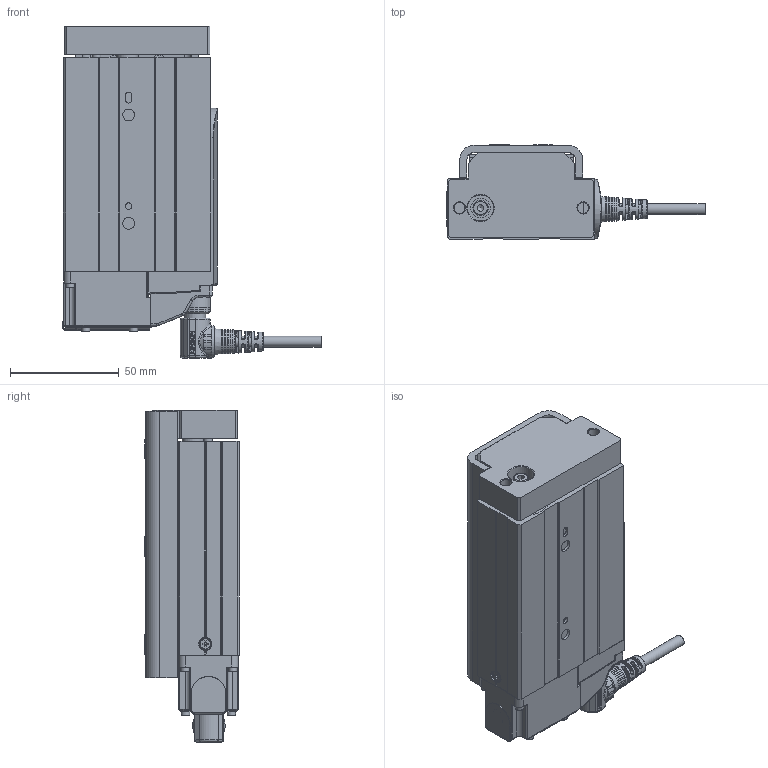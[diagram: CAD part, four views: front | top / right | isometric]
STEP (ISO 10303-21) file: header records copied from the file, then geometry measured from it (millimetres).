
FILE_DESCRIPTION(/* description */ ('STEP AP203'),/* implementation_level */ '2;1');
FILE_NAME(/* name */ 'D:\暫\2025.02.06 CSG 3D\CSG25-B\CSG25-S50-B-WL.stp',/* time_stamp */ '2025-02-08T10:33:34+08:00',/* author */ ('T10033'),/* organization */ (''),/* preprocessor_version */ 'ST-DEVELOPER v18.1',/* originating_system */ 'Autodesk Inventor 2020',/* authorisation */ '');
FILE_SCHEMA (('CONFIG_CONTROL_DESIGN'));
Products named in the file (29): CSG25-50行程-煞車; ©T©wªO-·¥­­¾×ª
O4-M2¤ú; M12 -14PIN  ªOºÝ-²Ä¤@ºØ
³W®æ; CSG25-50¥»Åé3ª©-ªo¤Õ
½Õ¾ã¨¤«×; countersunk flat head cross recess screw_iso_ISO 7046-1 - M2.5 x 4 - 
Z - 4N; ¶ì½¦ºÝ»-L¼Ë¦¡(TOYO)-°
t¦XPCB(·Ù¨®¥Î)-DF3±µÀYª½
±µ©ñ¤Jª©; IS 2269 - M2 x 10; ISO 4762 - M2.5 x 6ISO; PCB; 423T324GV F; 22024-000496; plain washer 10673 type snl_iso_ISO 10673-4.55-S; 22035-000061(G4ªo¯]); countersunk flat head cross recess screw_iso_ISO 7046-1 - M2.5 x 4 - 
Z - 4N_1; plain washer 10673 type snl_iso_ISO 10673-2.75-S; socket head cap screw_iso_ISO 4762 M2.5 x 5 - 5N; ©T©wªO-·¥­­¾×ª
O4-M2¤ú_1; socket head cap screw_iso_ISO 4762 M2.5 x 6 - 6N; socket head cap screw_iso_ISO 4762 M2.5 x 8 - 8N; socket head cap screw_iso_ISO 4762 M2 x 12 - 12N; M12 -14PIN  ªOºÝ-²Ä¤@ºØ
³W®æ_1; CSG25-50¥»Åé3ª©-ªo¤Õ
½Õ¾ã¨¤«×_1; 12003-000221-­×§ï; CSG25-Carriage-newtype; CNS 3932 - M 4 x 0.7 x 12; CNS 4558 - M5 x 0.8 x 12; Solid1-2; 43T34 TFSDR_Shrinkwrap_1; M12-14PIN 線端90度接頭-05中繼線
Assembly tree (40 placements, depth 3):
  CSG25-50行程-煞車
    ©T©wªO-·¥­­¾×ª
O4-M2¤ú
    M12 -14PIN  ªOºÝ-²Ä¤@ºØ
³W®æ
    CSG25-50¥»Åé3ª©-ªo¤Õ
½Õ¾ã¨¤«×
    countersunk flat head cross recess screw_iso_ISO 7046-1 - M2.5 x 4 - 
Z - 4N
    ¶ì½¦ºÝ»-L¼Ë¦¡(TOYO)-°
t¦XPCB(·Ù¨®¥Î)-DF3±µÀYª½
±µ©ñ¤Jª©
    IS 2269 - M2 x 10  x2
    ISO 4762 - M2.5 x 6ISO  x2
    PCB
    423T324GV F
      22024-000496
      plain washer 10673 type snl_iso_ISO 10673-4.55-S
      22035-000061(G4ªo¯])
      socket head cap screw_iso_ISO 4762 M2.5 x 8 - 8N  x8
      countersunk flat head cross recess screw_iso_ISO 7046-1 - M2.5 x 4 - 
Z - 4N_1
      plain washer 10673 type snl_iso_ISO 10673-2.75-S
      socket head cap screw_iso_ISO 4762 M2.5 x 5 - 5N
      ©T©wªO-·¥­­¾×ª
O4-M2¤ú_1
      socket head cap screw_iso_ISO 4762 M2.5 x 6 - 6N  x2
      socket head cap screw_iso_ISO 4762 M2 x 12 - 12N  x2
      M12 -14PIN  ªOºÝ-²Ä¤@ºØ
³W®æ_1
      CSG25-50¥»Åé3ª©-ªo¤Õ
½Õ¾ã¨¤«×_1
      12003-000221-­×§ï
      CSG25-Carriage-newtype
      CNS 3932 - M 4 x 0.7 x 12
      CNS 4558 - M5 x 0.8 x 12  x2
      Solid1-2
    43T34 TFSDR_Shrinkwrap_1
    M12-14PIN 線端90度接頭-05中繼線
Bounding box: 119 x 43.5 x 153 mm (x, y, z)
Volume: 376706.2 mm3; surface area: 131182.7 mm2
Topology: 54 solids, 62 shells, 3435 faces, 9442 edges, 6261 vertices
Faces by surface type: plane 1715, cylinder 727, bspline 482, cone 351, torus 147, sphere 13
Full cylindrical faces by diameter (mm): 0.6 x28, 0.65 x14, 1 x14, 1.567 x1, 1.6 x8, 2 x6, 2.05 x13, 2.5 x21, 2.75 x1, 2.9 x2, 3 x4, 3.8 x10, 4 x1, 4.134 x8, 4.5 x15, 4.55 x1, 4.7 x2, 4.95 x1, 5 x9, 5.2 x1, 5.3 x2, 5.4 x6, 5.5 x4, 6 x5, 7 x3, 8 x1, 8.9 x1, 9 x13, 9.5 x2, 9.6 x1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
Entity records: 130629 total; most frequent: CARTESIAN_POINT 46450, ORIENTED_EDGE 17593, DIRECTION 16442, EDGE_CURVE 8815, AXIS2_PLACEMENT_3D 5946, VERTEX_POINT 5882, LINE 4550, VECTOR 4550
